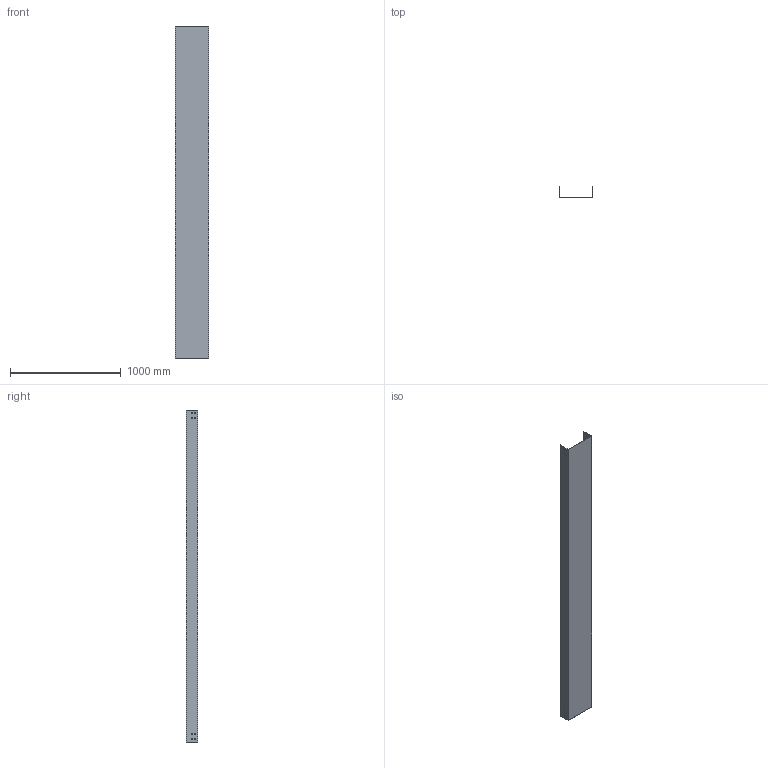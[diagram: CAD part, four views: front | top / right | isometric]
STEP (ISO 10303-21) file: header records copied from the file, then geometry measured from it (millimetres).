
FILE_DESCRIPTION (( 'STEP AP214' ), '1' );
FILE_NAME ('CC_301.step', '2025-07-16T09:04:19', ( '' ), ( '' ), 'SwSTEP 2.0', 'SolidWorks 2023', '' );
FILE_SCHEMA (( 'AUTOMOTIVE_DESIGN' ));
Length unit declared in the file: millimetre
Products named in the file (1): CC_301
Bounding box: 300 x 100 x 3000 mm (x, y, z)
Volume: 2234820 mm3; surface area: 2991067 mm2
Topology: 1 solids, 1 shells, 74 faces, 216 edges, 144 vertices
Faces by surface type: plane 74
Entity records: 2487 total; most frequent: CARTESIAN_POINT 435, ORIENTED_EDGE 432, DIRECTION 366, LINE 216, VECTOR 216, EDGE_CURVE 216, VERTEX_POINT 144, EDGE_LOOP 106
